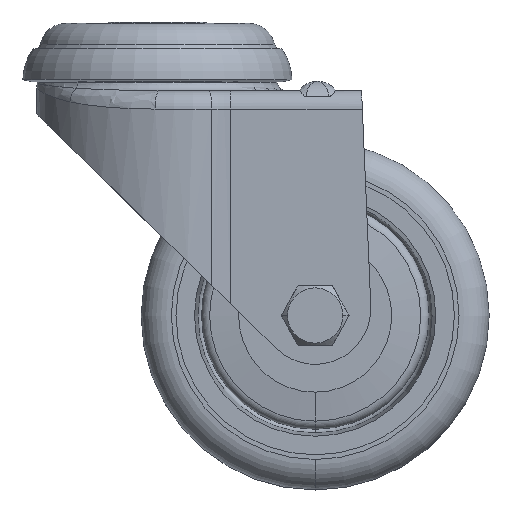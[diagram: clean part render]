
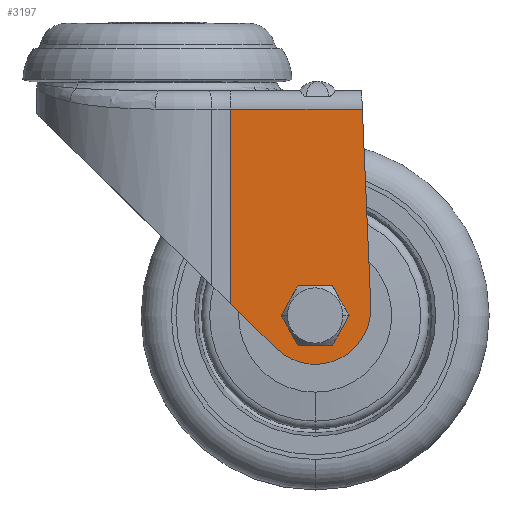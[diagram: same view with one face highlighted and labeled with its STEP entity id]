
A CAD part, top view. The second image highlights one B-rep face of the part: STEP entity #3197.
In plain terms, the highlighted planar face has unit normal (0, 0, 1).
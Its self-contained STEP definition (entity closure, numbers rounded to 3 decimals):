
#192=CARTESIAN_POINT('',(37.671,-4.,31.75));
#831=DIRECTION('',(0.,1.,0.));
#832=VECTOR('',#831,41.923);
#833=CARTESIAN_POINT('',(9.257,-45.923,31.75));
#834=LINE('',#833,#832);
#1194=CARTESIAN_POINT('',(27.5,-48.5,31.75));
#1195=DIRECTION('',(0.,0.,1.));
#1196=DIRECTION('',(1.,0.,0.));
#1197=AXIS2_PLACEMENT_3D('',#1194,#1195,#1196);
#1199=CARTESIAN_POINT('',(27.5,-48.5,31.75));
#1200=DIRECTION('',(0.,0.,1.));
#1201=DIRECTION('',(-1.,0.,0.));
#1202=AXIS2_PLACEMENT_3D('',#1199,#1200,#1201);
#1204=DIRECTION('',(-1.,0.,0.));
#1205=VECTOR('',#1204,28.414);
#1206=CARTESIAN_POINT('',(37.671,-4.,31.75));
#1207=LINE('',#1206,#1205);
#1208=DIRECTION('',(0.043,-0.999,0.));
#1209=VECTOR('',#1208,42.526);
#1210=CARTESIAN_POINT('',(37.671,-4.,31.75));
#1211=LINE('',#1210,#1209);
#1212=CARTESIAN_POINT('',(27.5,-47.,31.75));
#1213=DIRECTION('',(0.,0.,1.));
#1214=DIRECTION('',(-0.7,-0.714,0.));
#1215=AXIS2_PLACEMENT_3D('',#1212,#1213,#1214);
#1217=DIRECTION('',(0.714,-0.7,0.));
#1218=VECTOR('',#1217,13.783);
#1219=CARTESIAN_POINT('',(9.257,-45.923,31.75));
#1220=LINE('',#1219,#1218);
#1301=CARTESIAN_POINT('',(31.65,-48.5,31.75));
#1302=CARTESIAN_POINT('',(23.35,-48.5,31.75));
#1303=VERTEX_POINT('',#1301);
#1304=VERTEX_POINT('',#1302);
#1309=CARTESIAN_POINT('',(9.257,-45.923,31.75));
#1310=CARTESIAN_POINT('',(19.101,-55.57,31.75));
#1311=VERTEX_POINT('',#1309);
#1312=VERTEX_POINT('',#1310);
#1349=CARTESIAN_POINT('',(9.257,-4.,31.75));
#1350=VERTEX_POINT('',#1349);
#1354=VERTEX_POINT('',#192);
#1357=CARTESIAN_POINT('',(39.489,-46.487,31.75));
#1358=VERTEX_POINT('',#1357);
#3181=CARTESIAN_POINT('',(0.,0.,31.75));
#3182=DIRECTION('',(0.,0.,1.));
#3183=DIRECTION('',(1.,0.,0.));
#3184=AXIS2_PLACEMENT_3D('',#3181,#3182,#3183);
#3185=PLANE('',#3184);
#3186=ORIENTED_EDGE('',*,*,#1608,.F.);
#3187=ORIENTED_EDGE('',*,*,#1694,.T.);
#3188=ORIENTED_EDGE('',*,*,#3175,.F.);
#3189=ORIENTED_EDGE('',*,*,#2565,.F.);
#3190=ORIENTED_EDGE('',*,*,#2607,.T.);
#3191=EDGE_LOOP('',(#3186,#3187,#3188,#3189,#3190));
#3192=FACE_OUTER_BOUND('',#3191,.F.);
#3193=ORIENTED_EDGE('',*,*,#2310,.T.);
#3194=ORIENTED_EDGE('',*,*,#2338,.T.);
#3195=EDGE_LOOP('',(#3193,#3194));
#3196=FACE_BOUND('',#3195,.F.);
#1198=CIRCLE('',#1197,4.15);
#1203=CIRCLE('',#1202,4.15);
#1216=CIRCLE('',#1215,12.);
#1608=EDGE_CURVE('',#1354,#1350,#1207,.T.);
#1694=EDGE_CURVE('',#1354,#1358,#1211,.T.);
#2310=EDGE_CURVE('',#1303,#1304,#1198,.T.);
#2338=EDGE_CURVE('',#1304,#1303,#1203,.T.);
#2565=EDGE_CURVE('',#1311,#1312,#1220,.T.);
#2607=EDGE_CURVE('',#1311,#1350,#834,.T.);
#3175=EDGE_CURVE('',#1312,#1358,#1216,.T.);
#3197=ADVANCED_FACE('',(#3192,#3196),#3185,.T.);
